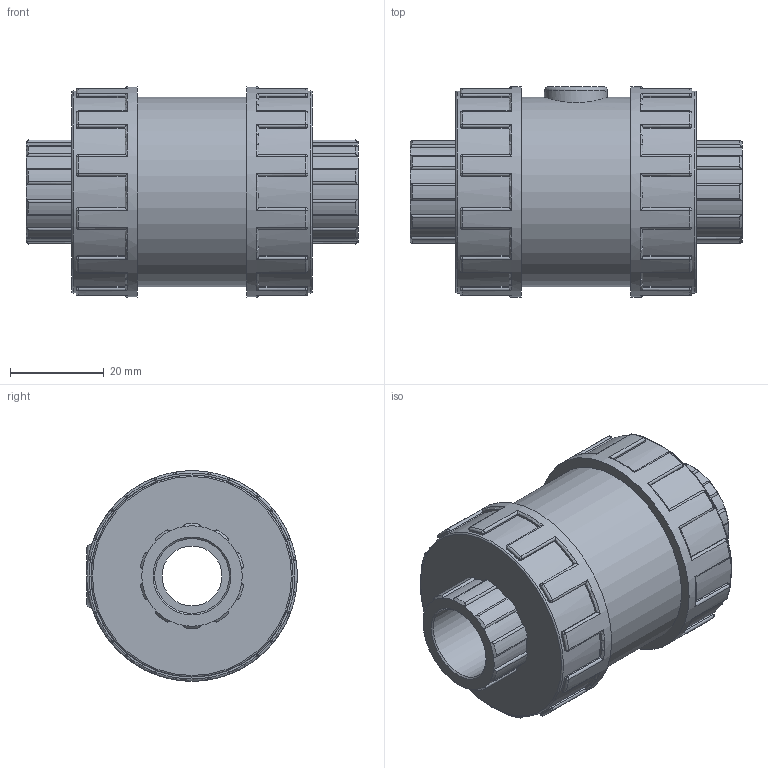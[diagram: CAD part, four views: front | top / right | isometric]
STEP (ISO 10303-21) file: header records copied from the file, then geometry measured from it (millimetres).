
FILE_DESCRIPTION(/* description */ ('PLASSON AIR RELEASE VALVE CEM PVC 16'),/* implementation_level */ '2;1');
FILE_NAME(/* name */ 'C:\Dropbox\KIMPROJECTS-Inventor\99-16-3568-Processing\PVC Catalog 2017\116300 - 116900\116300016.ipt.stp',/* time_stamp */ '2017-12-07T16:13:16+02:00',/* author */ ('KIM'),/* organization */ (''),/* preprocessor_version */ 'ST-DEVELOPER v15.6',/* originating_system */ 'Autodesk Inventor 2015',/* authorisation */ '');
FILE_SCHEMA (('AUTOMOTIVE_DESIGN { 1 0 10303 214 3 1 1 }'));
Length unit declared in the file: millimetre
Products named in the file (1): 116300016
Bounding box: 71 x 45 x 45 mm (x, y, z)
Volume: 69432.3 mm3; surface area: 15311.7 mm2
Topology: 1 solids, 1 shells, 411 faces, 1021 edges, 618 vertices
Faces by surface type: cylinder 185, plane 105, torus 51, sphere 48, cone 22
Full cylindrical faces by diameter (mm): 12.8 x1, 13.5 x1, 16 x2, 40.5 x1, 43.2 x2, 45 x2
Entity records: 13378 total; most frequent: CARTESIAN_POINT 3599, DIRECTION 2180, ORIENTED_EDGE 1998, EDGE_CURVE 999, AXIS2_PLACEMENT_3D 906, VERTEX_POINT 611, CIRCLE 494, EDGE_LOOP 434
